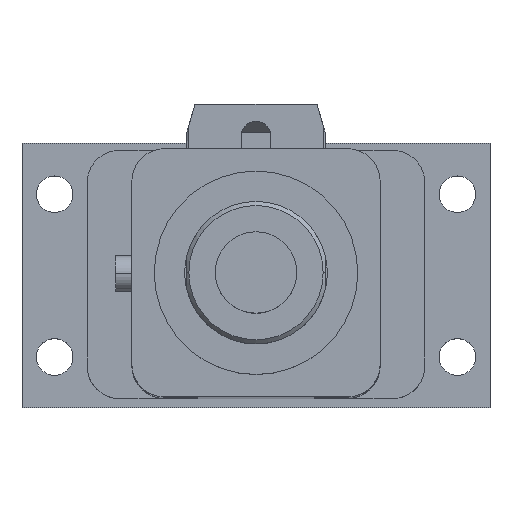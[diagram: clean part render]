
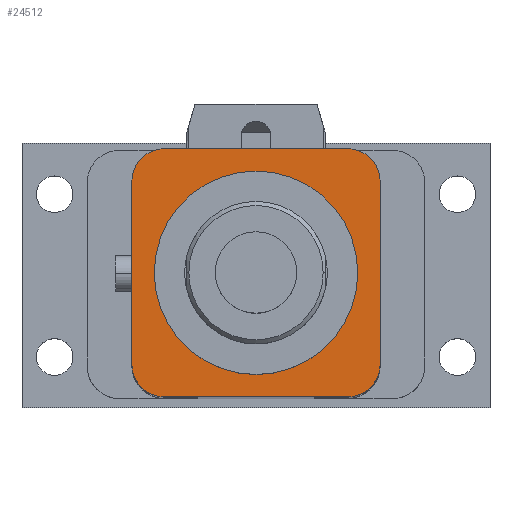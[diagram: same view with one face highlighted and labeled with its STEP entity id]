
A CAD part, top view. The second image highlights one B-rep face of the part: STEP entity #24512.
In plain terms, the highlighted planar face has unit normal (0, 0, 1).
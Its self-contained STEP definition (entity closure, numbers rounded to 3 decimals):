
#405 = VECTOR ( 'NONE', #18427, 1000. ) ;
#509 = CIRCLE ( 'NONE', #18442, 25. ) ;
#1115 = VERTEX_POINT ( 'NONE', #15914 ) ;
#1120 = CARTESIAN_POINT ( 'NONE',  ( 0., 0., 197. ) ) ;
#1167 = VERTEX_POINT ( 'NONE', #9986 ) ;
#1345 = LINE ( 'NONE', #23904, #405 ) ;
#1936 = ORIENTED_EDGE ( 'NONE', *, *, #18705, .T. ) ;
#2116 = CIRCLE ( 'NONE', #8684, 25. ) ;
#2254 = EDGE_LOOP ( 'NONE', ( #14152, #21354, #17572, #2732, #6958, #16549, #1936, #3900 ) ) ;
#2732 = ORIENTED_EDGE ( 'NONE', *, *, #3854, .T. ) ;
#2917 = EDGE_CURVE ( 'NONE', #22817, #5582, #11144, .T. ) ;
#3496 = EDGE_CURVE ( 'NONE', #1115, #14701, #7163, .T. ) ;
#3854 = EDGE_CURVE ( 'NONE', #5582, #14343, #1345, .T. ) ;
#3900 = ORIENTED_EDGE ( 'NONE', *, *, #3496, .T. ) ;
#4500 = LINE ( 'NONE', #17472, #10924 ) ;
#5051 = CIRCLE ( 'NONE', #19117, 8. ) ;
#5434 = DIRECTION ( 'NONE',  ( 0., 0., 1. ) ) ;
#5582 = VERTEX_POINT ( 'NONE', #13585 ) ;
#5691 = CARTESIAN_POINT ( 'NONE',  ( -22.5, 22.5, 197. ) ) ;
#5821 = EDGE_LOOP ( 'NONE', ( #17576, #15139 ) ) ;
#5921 = AXIS2_PLACEMENT_3D ( 'NONE', #17063, #5434, #16712 ) ;
#6273 = CARTESIAN_POINT ( 'NONE',  ( 25., 0., 197. ) ) ;
#6550 = VERTEX_POINT ( 'NONE', #21046 ) ;
#6603 = CARTESIAN_POINT ( 'NONE',  ( -22.5, 30.5, 197. ) ) ;
#6958 = ORIENTED_EDGE ( 'NONE', *, *, #23031, .T. ) ;
#7163 = LINE ( 'NONE', #21076, #16882 ) ;
#7226 = CIRCLE ( 'NONE', #17809, 8. ) ;
#7695 = DIRECTION ( 'NONE',  ( 0., 0., 1. ) ) ;
#8381 = VERTEX_POINT ( 'NONE', #6273 ) ;
#8684 = AXIS2_PLACEMENT_3D ( 'NONE', #1120, #18284, #22342 ) ;
#9615 = DIRECTION ( 'NONE',  ( -1., 0., 0. ) ) ;
#9692 = DIRECTION ( 'NONE',  ( 0., 1., 0. ) ) ;
#9693 = DIRECTION ( 'NONE',  ( 0., 0., 1. ) ) ;
#9986 = CARTESIAN_POINT ( 'NONE',  ( -30.5, -22.5, 197. ) ) ;
#10014 = CARTESIAN_POINT ( 'NONE',  ( 22.5, -30.5, 197. ) ) ;
#10197 = DIRECTION ( 'NONE',  ( 0., -1., 0. ) ) ;
#10513 = VECTOR ( 'NONE', #10197, 1000. ) ;
#10613 = DIRECTION ( 'NONE',  ( 1., 0., 0. ) ) ;
#10710 = PLANE ( 'NONE',  #24755 ) ;
#10796 = CARTESIAN_POINT ( 'NONE',  ( 30.5, 22.5, 197. ) ) ;
#10924 = VECTOR ( 'NONE', #9692, 1000. ) ;
#11144 = CIRCLE ( 'NONE', #5921, 8. ) ;
#12507 = CARTESIAN_POINT ( 'NONE',  ( 22.5, -22.5, 197. ) ) ;
#13585 = CARTESIAN_POINT ( 'NONE',  ( 22.5, 30.5, 197. ) ) ;
#13854 = CARTESIAN_POINT ( 'NONE',  ( -22.5, -22.5, 197. ) ) ;
#14152 = ORIENTED_EDGE ( 'NONE', *, *, #18150, .T. ) ;
#14343 = VERTEX_POINT ( 'NONE', #6603 ) ;
#14701 = VERTEX_POINT ( 'NONE', #10014 ) ;
#14928 = FACE_BOUND ( 'NONE', #5821, .T. ) ;
#15139 = ORIENTED_EDGE ( 'NONE', *, *, #25048, .F. ) ;
#15167 = DIRECTION ( 'NONE',  ( 1., 0., 0. ) ) ;
#15560 = DIRECTION ( 'NONE',  ( 0., 0., 1. ) ) ;
#15914 = CARTESIAN_POINT ( 'NONE',  ( -22.5, -30.5, 197. ) ) ;
#16046 = CARTESIAN_POINT ( 'NONE',  ( -30.5, -22.5, 197. ) ) ;
#16239 = EDGE_CURVE ( 'NONE', #6550, #22817, #4500, .T. ) ;
#16549 = ORIENTED_EDGE ( 'NONE', *, *, #18897, .T. ) ;
#16712 = DIRECTION ( 'NONE',  ( -1., 0., 0. ) ) ;
#16780 = AXIS2_PLACEMENT_3D ( 'NONE', #5691, #9693, #9615 ) ;
#16882 = VECTOR ( 'NONE', #15167, 1000. ) ;
#17063 = CARTESIAN_POINT ( 'NONE',  ( 22.5, 22.5, 197. ) ) ;
#17340 = FACE_OUTER_BOUND ( 'NONE', #2254, .T. ) ;
#17398 = EDGE_CURVE ( 'NONE', #24900, #8381, #509, .T. ) ;
#17472 = CARTESIAN_POINT ( 'NONE',  ( 30.5, -22.5, 197. ) ) ;
#17572 = ORIENTED_EDGE ( 'NONE', *, *, #2917, .T. ) ;
#17576 = ORIENTED_EDGE ( 'NONE', *, *, #17398, .F. ) ;
#17809 = AXIS2_PLACEMENT_3D ( 'NONE', #21171, #19309, #21251 ) ;
#18150 = EDGE_CURVE ( 'NONE', #14701, #6550, #7226, .T. ) ;
#18284 = DIRECTION ( 'NONE',  ( 0., 0., 1. ) ) ;
#18427 = DIRECTION ( 'NONE',  ( -1., 0., 0. ) ) ;
#18442 = AXIS2_PLACEMENT_3D ( 'NONE', #24219, #20607, #20440 ) ;
#18705 = EDGE_CURVE ( 'NONE', #1167, #1115, #5051, .T. ) ;
#18897 = EDGE_CURVE ( 'NONE', #22087, #1167, #22317, .T. ) ;
#19117 = AXIS2_PLACEMENT_3D ( 'NONE', #13854, #15560, #23238 ) ;
#19309 = DIRECTION ( 'NONE',  ( 0., 0., 1. ) ) ;
#19323 = CARTESIAN_POINT ( 'NONE',  ( -30.5, 22.5, 197. ) ) ;
#20440 = DIRECTION ( 'NONE',  ( 1., 0., 0. ) ) ;
#20607 = DIRECTION ( 'NONE',  ( 0., 0., 1. ) ) ;
#21046 = CARTESIAN_POINT ( 'NONE',  ( 30.5, -22.5, 197. ) ) ;
#21076 = CARTESIAN_POINT ( 'NONE',  ( -22.5, -30.5, 197. ) ) ;
#21171 = CARTESIAN_POINT ( 'NONE',  ( 22.5, -22.5, 197. ) ) ;
#21251 = DIRECTION ( 'NONE',  ( 1., 0., 0. ) ) ;
#21354 = ORIENTED_EDGE ( 'NONE', *, *, #16239, .T. ) ;
#21766 = CARTESIAN_POINT ( 'NONE',  ( -25., 0., 197. ) ) ;
#21968 = CIRCLE ( 'NONE', #16780, 8. ) ;
#22087 = VERTEX_POINT ( 'NONE', #19323 ) ;
#22317 = LINE ( 'NONE', #16046, #10513 ) ;
#22342 = DIRECTION ( 'NONE',  ( 1., 0., 0. ) ) ;
#22817 = VERTEX_POINT ( 'NONE', #10796 ) ;
#23031 = EDGE_CURVE ( 'NONE', #14343, #22087, #21968, .T. ) ;
#23238 = DIRECTION ( 'NONE',  ( -1., 0., 0. ) ) ;
#23904 = CARTESIAN_POINT ( 'NONE',  ( -22.5, 30.5, 197. ) ) ;
#24219 = CARTESIAN_POINT ( 'NONE',  ( 0., 0., 197. ) ) ;
#24512 = ADVANCED_FACE ( 'NONE', ( #17340, #14928 ), #10710, .T. ) ;
#24755 = AXIS2_PLACEMENT_3D ( 'NONE', #12507, #7695, #10613 ) ;
#24900 = VERTEX_POINT ( 'NONE', #21766 ) ;
#25048 = EDGE_CURVE ( 'NONE', #8381, #24900, #2116, .T. ) ;
